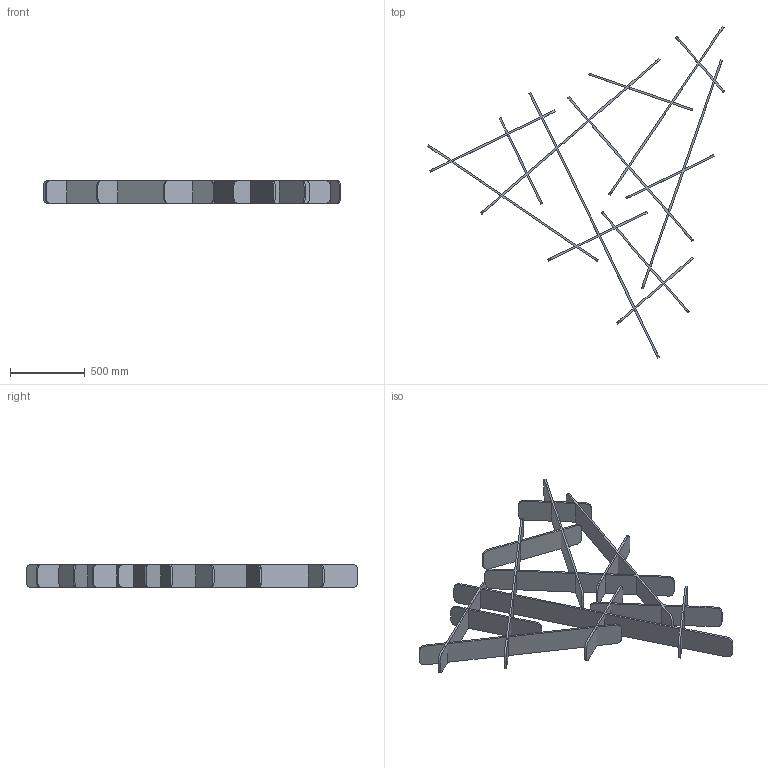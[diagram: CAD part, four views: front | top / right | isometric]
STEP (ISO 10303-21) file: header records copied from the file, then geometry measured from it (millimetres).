
FILE_DESCRIPTION(/* description */ (''),/* implementation_level */ '2;1');
FILE_NAME(/* name */ 'Thatch Triangle Radiused Simplified',/* time_stamp */ '2026-04-13T12:33:08-05:00',/* author */ (''),/* organization */ (''),/* preprocessor_version */ 'ST-DEVELOPER v19.2',/* originating_system */ 'Rhino 8.29',/* authorisation */ '');
FILE_SCHEMA (('CONFIG_CONTROL_DESIGN'));
Length unit declared in the file: inch
Products named in the file (1): Document
Bounding box: 1987.55 x 2217.21 x 152.4 mm (x, y, z)
Surface area: 4739279.7 mm2 (no closed solid volume)
Topology: 0 solids, 57 shells, 198 faces, 812 edges, 616 vertices
Faces by surface type: plane 142, cylinder 56
Entity records: 8534 total; most frequent: CARTESIAN_POINT 3070, ORIENTED_EDGE 1176, EDGE_CURVE 812, VERTEX_POINT 616, DIRECTION 608, B_SPLINE_CURVE_WITH_KNOTS 440, AXIS2_PLACEMENT_3D 382, TRIMMED_CURVE 224
